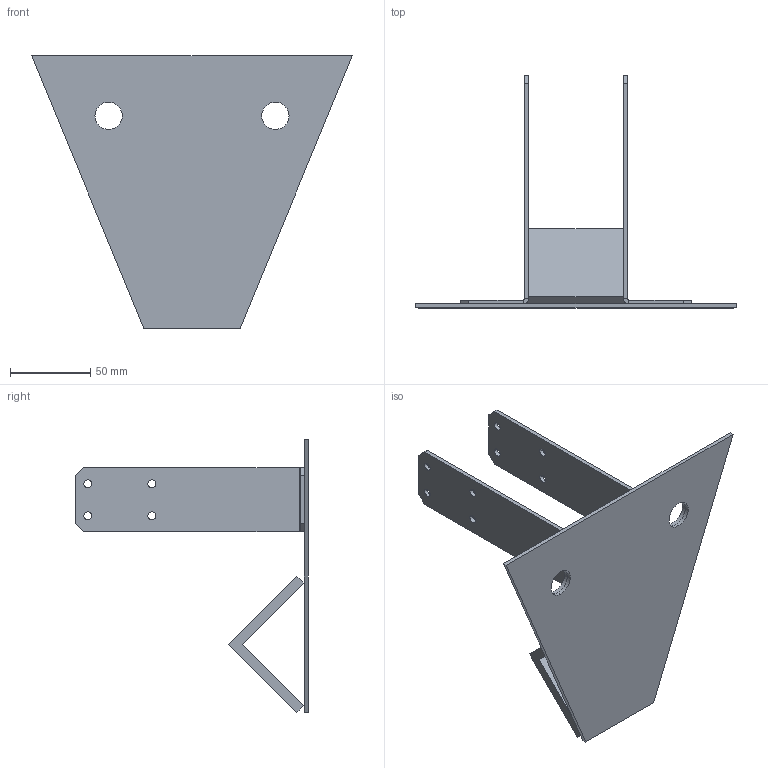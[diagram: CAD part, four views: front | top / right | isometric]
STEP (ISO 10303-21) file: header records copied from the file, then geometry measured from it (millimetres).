
FILE_DESCRIPTION (( 'STEP AP203' ), '1' );
FILE_NAME ('21100.STEP', '2020-05-20T12:24:13', ( '' ), ( '' ), 'SwSTEP 2.0', 'SolidWorks 2013', '' );
FILE_SCHEMA (( 'CONFIG_CONTROL_DESIGN' ));
Length unit declared in the file: millimetre
Products named in the file (4): PLSFB60; PLWESF60; STSF40X175; 21100
Assembly tree (4 placements, depth 2):
  21100
    PLSFB60
    PLWESF60
    STSF40X175  x2
Bounding box: 200 x 144.96 x 170 mm (x, y, z)
Volume: 129691.7 mm3; surface area: 91263.9 mm2
Topology: 4 solids, 4 shells, 74 faces, 182 edges, 116 vertices
Faces by surface type: plane 46, cylinder 28
Entity records: 1818 total; most frequent: DIRECTION 250, CARTESIAN_POINT 237, ORIENTED_EDGE 224, EDGE_CURVE 112, AXIS2_PLACEMENT_3D 85, VECTOR 80, LINE 80, VERTEX_POINT 72
